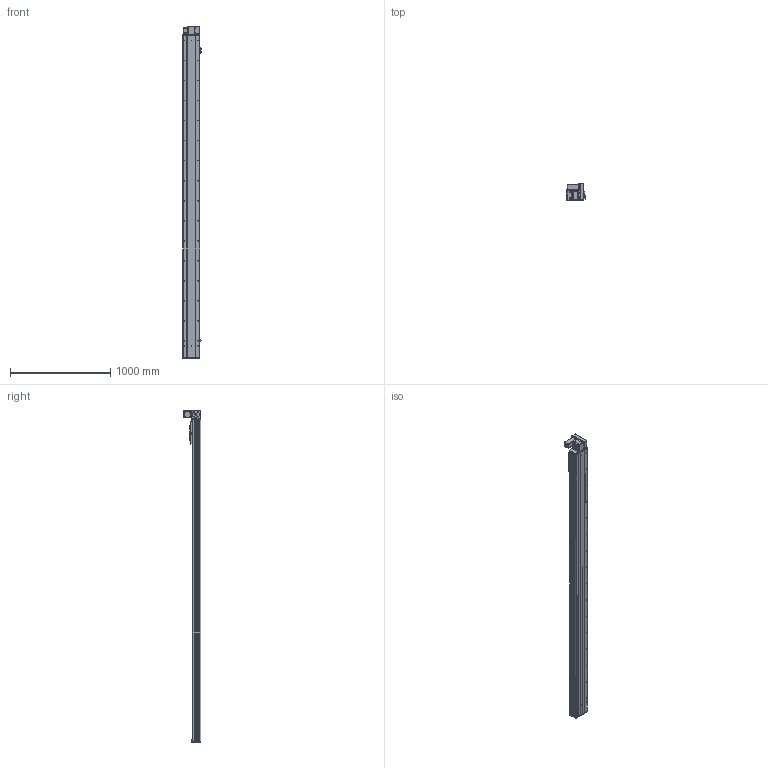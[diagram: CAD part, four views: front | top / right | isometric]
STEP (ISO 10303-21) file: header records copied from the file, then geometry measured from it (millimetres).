
FILE_DESCRIPTION (( 'STEP AP203' ), '1' );
FILE_NAME ('Y170CB-D105-S2900-UR-P400W.STEP', '2020-02-20T05:56:54', ( '微软用户' ), ( '微软中国' ), 'SwSTEP 2.0', 'SolidWorks 2017', '' );
FILE_SCHEMA (( 'CONFIG_CONTROL_DESIGN' ));
Length unit declared in the file: millimetre
Products named in the file (18): Y1埴倛裔; 70CB-耜裔啣-; 17B-耜蚾蟀諉啣----; 70C--詩湍揤踡え-; 00B-俋欶BM--163; 70CB--耜裔; 70B喘謫眊----; 70C-雄赽釱-奻-; B-源倛裔啣; Y170CB-D105-S2900-UR-P400W; 0C--雄赽釱俋欶-170; 0B-萇儂楊擘啣; 70CB-詩湍--; san松下电机400不带刹车----; Y100-135俋离換覜ん--; 70CB-掛极-; Y170CB-陔俋离換覜結え---; --70CB --喘謫眊楊擘啣-
Assembly tree (21 placements, depth 2):
  Y170CB-D105-S2900-UR-P400W
    B-源倛裔啣
    0B-萇儂楊擘啣
    san松下电机400不带刹车----
    70CB-掛极-
    --70CB --喘謫眊楊擘啣-
    70CB-耜裔啣-  x2
    70C--詩湍揤踡え-  x2
    70CB--耜裔
    70C-雄赽釱-奻-
    0C--雄赽釱俋欶-170
    70CB-詩湍--
    Y100-135俋离換覜ん--  x3
    Y170CB-陔俋离換覜結え---
    Y1埴倛裔
    17B-耜蚾蟀諉啣----
    00B-俋欶BM--163
    70B喘謫眊----
Bounding box: 183.5 x 174 x 3316 mm (x, y, z)
Volume: 14019856.7 mm3; surface area: 5067885.8 mm2
Topology: 21 solids, 21 shells, 1087 faces, 2933 edges, 1946 vertices
Faces by surface type: cylinder 601, plane 462, cone 24
Entity records: 34956 total; most frequent: CARTESIAN_POINT 6456, DIRECTION 5690, ORIENTED_EDGE 5348, EDGE_CURVE 2674, AXIS2_PLACEMENT_3D 2108, VERTEX_POINT 1776, VECTOR 1474, LINE 1474
